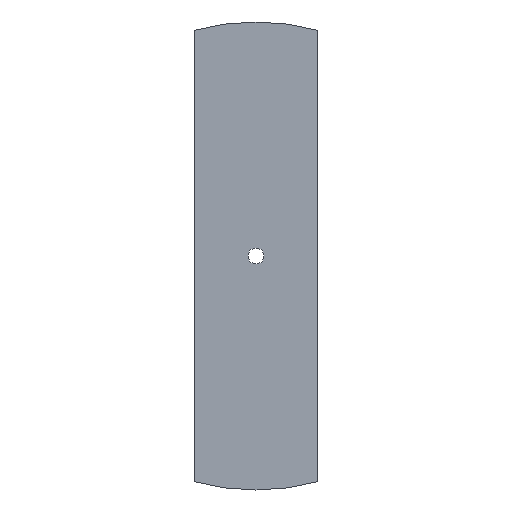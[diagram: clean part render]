
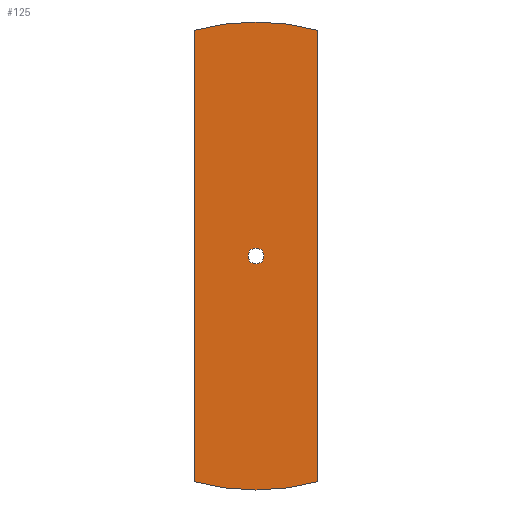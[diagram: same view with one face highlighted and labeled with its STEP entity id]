
A CAD part, front view. The second image highlights one B-rep face of the part: STEP entity #125.
In plain terms, the highlighted planar face has unit normal (0, -1, 0).
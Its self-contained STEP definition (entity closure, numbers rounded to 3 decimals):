
#16=FACE_BOUND('',#36,.T.);
#20=PLANE('',#152);
#27=FACE_OUTER_BOUND('',#35,.T.);
#35=EDGE_LOOP('',(#111,#112,#113,#114));
#36=EDGE_LOOP('',(#115));
#38=LINE('',#200,#47);
#43=LINE('',#214,#52);
#47=VECTOR('',#164,10.);
#52=VECTOR('',#177,10.);
#56=CIRCLE('',#142,4.);
#57=CIRCLE('',#145,117.3);
#59=CIRCLE('',#149,117.3);
#62=VERTEX_POINT('',#194);
#63=VERTEX_POINT('',#198);
#64=VERTEX_POINT('',#199);
#67=VERTEX_POINT('',#207);
#69=VERTEX_POINT('',#213);
#73=EDGE_CURVE('',#62,#62,#56,.T.);
#74=EDGE_CURVE('',#63,#64,#38,.T.);
#78=EDGE_CURVE('',#67,#64,#57,.F.);
#81=EDGE_CURVE('',#67,#69,#43,.T.);
#84=EDGE_CURVE('',#63,#69,#59,.F.);
#111=ORIENTED_EDGE('',*,*,#84,.F.);
#112=ORIENTED_EDGE('',*,*,#74,.T.);
#113=ORIENTED_EDGE('',*,*,#78,.F.);
#114=ORIENTED_EDGE('',*,*,#81,.T.);
#115=ORIENTED_EDGE('',*,*,#73,.F.);
#125=ADVANCED_FACE('',(#27,#16),#20,.F.);
#142=AXIS2_PLACEMENT_3D('',#196,#160,#161);
#145=AXIS2_PLACEMENT_3D('',#208,#170,#171);
#149=AXIS2_PLACEMENT_3D('',#219,#182,#183);
#152=AXIS2_PLACEMENT_3D('',#222,#188,#189);
#160=DIRECTION('center_axis',(0.,-1.,0.));
#161=DIRECTION('ref_axis',(1.,0.,0.));
#164=DIRECTION('',(0.,0.,-1.));
#170=DIRECTION('center_axis',(0.,-1.,0.));
#171=DIRECTION('ref_axis',(1.,0.,0.));
#177=DIRECTION('',(0.,0.,1.));
#182=DIRECTION('center_axis',(0.,-1.,0.));
#183=DIRECTION('ref_axis',(1.,0.,0.));
#188=DIRECTION('center_axis',(0.,1.,0.));
#189=DIRECTION('ref_axis',(1.,0.,0.));
#194=CARTESIAN_POINT('',(-4.,0.,0.));
#196=CARTESIAN_POINT('Origin',(0.,0.,0.));
#198=CARTESIAN_POINT('',(-31.,0.,113.13));
#199=CARTESIAN_POINT('',(-31.,0.,-113.13));
#200=CARTESIAN_POINT('',(-31.,0.,121.095));
#207=CARTESIAN_POINT('',(31.,0.,-113.13));
#208=CARTESIAN_POINT('Origin',(0.,0.,0.));
#213=CARTESIAN_POINT('',(31.,0.,113.13));
#214=CARTESIAN_POINT('',(31.,0.,-121.095));
#219=CARTESIAN_POINT('Origin',(0.,0.,0.));
#222=CARTESIAN_POINT('Origin',(0.,0.,0.));
